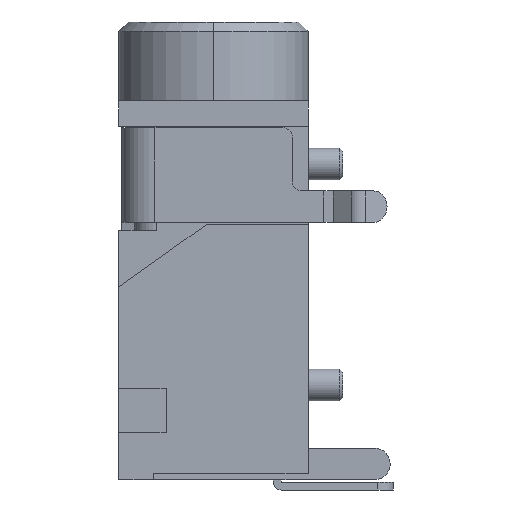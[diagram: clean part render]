
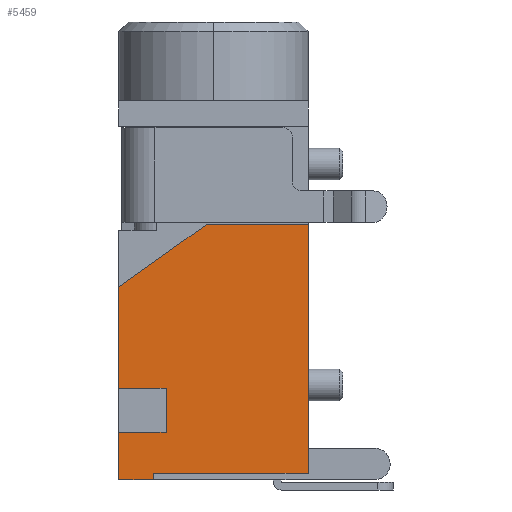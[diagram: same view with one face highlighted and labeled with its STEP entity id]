
A CAD part, left-side view. The second image highlights one B-rep face of the part: STEP entity #5459.
In plain terms, the highlighted planar face has unit normal (-1, 0, 0).
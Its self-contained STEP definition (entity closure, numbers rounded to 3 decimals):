
#62 = VECTOR ( 'NONE', #1452, 1000. ) ;
#121 = VECTOR ( 'NONE', #6139, 1000. ) ;
#291 = FACE_OUTER_BOUND ( 'NONE', #776, .T. ) ;
#308 = LINE ( 'NONE', #6707, #121 ) ;
#359 = CARTESIAN_POINT ( 'NONE',  ( -3.5, 4.5, 2.9 ) ) ;
#363 = CARTESIAN_POINT ( 'NONE',  ( -3.5, 6., 2.9 ) ) ;
#383 = EDGE_CURVE ( 'NONE', #5669, #6551, #308, .T. ) ;
#494 = VECTOR ( 'NONE', #7222, 1000. ) ;
#499 = CARTESIAN_POINT ( 'NONE',  ( -3.5, 0., 8.1 ) ) ;
#504 = ORIENTED_EDGE ( 'NONE', *, *, #2635, .T. ) ;
#634 = CARTESIAN_POINT ( 'NONE',  ( -3.5, 6., 2.9 ) ) ;
#704 = VECTOR ( 'NONE', #4278, 1000. ) ;
#748 = DIRECTION ( 'NONE',  ( -1., 0., 0. ) ) ;
#775 = DIRECTION ( 'NONE',  ( 0., 0., 1. ) ) ;
#776 = EDGE_LOOP ( 'NONE', ( #1754, #2987, #4012, #1013, #4878, #1028, #3564, #2177, #504, #3040, #1123 ) ) ;
#809 = EDGE_CURVE ( 'NONE', #6131, #2252, #1889, .T. ) ;
#1013 = ORIENTED_EDGE ( 'NONE', *, *, #4045, .F. ) ;
#1028 = ORIENTED_EDGE ( 'NONE', *, *, #2202, .T. ) ;
#1034 = LINE ( 'NONE', #5073, #2510 ) ;
#1123 = ORIENTED_EDGE ( 'NONE', *, *, #383, .F. ) ;
#1333 = CARTESIAN_POINT ( 'NONE',  ( -3.5, 4.9, 0. ) ) ;
#1452 = DIRECTION ( 'NONE',  ( 0., 1., 0. ) ) ;
#1747 = VERTEX_POINT ( 'NONE', #6940 ) ;
#1750 = CARTESIAN_POINT ( 'NONE',  ( -3.5, 3.2, 8.1 ) ) ;
#1754 = ORIENTED_EDGE ( 'NONE', *, *, #4555, .F. ) ;
#1812 = CARTESIAN_POINT ( 'NONE',  ( -3.5, 4.5, 1.5 ) ) ;
#1889 = LINE ( 'NONE', #359, #3371 ) ;
#1915 = VECTOR ( 'NONE', #5293, 1000. ) ;
#1942 = CARTESIAN_POINT ( 'NONE',  ( -3.5, 0., 0.2 ) ) ;
#1993 = VERTEX_POINT ( 'NONE', #6059 ) ;
#1995 = CARTESIAN_POINT ( 'NONE',  ( -3.5, 4.9, 0. ) ) ;
#2122 = VECTOR ( 'NONE', #2502, 1000. ) ;
#2177 = ORIENTED_EDGE ( 'NONE', *, *, #4280, .F. ) ;
#2202 = EDGE_CURVE ( 'NONE', #1747, #3749, #3956, .T. ) ;
#2252 = VERTEX_POINT ( 'NONE', #1812 ) ;
#2263 = LINE ( 'NONE', #1942, #1915 ) ;
#2476 = VERTEX_POINT ( 'NONE', #499 ) ;
#2502 = DIRECTION ( 'NONE',  ( 0., 0., 1. ) ) ;
#2510 = VECTOR ( 'NONE', #3943, 1000. ) ;
#2635 = EDGE_CURVE ( 'NONE', #1993, #2476, #3615, .T. ) ;
#2764 = EDGE_CURVE ( 'NONE', #1747, #5187, #3698, .T. ) ;
#2765 = VERTEX_POINT ( 'NONE', #363 ) ;
#2855 = CARTESIAN_POINT ( 'NONE',  ( -3.5, 4.9, 0.2 ) ) ;
#2976 = VECTOR ( 'NONE', #775, 1000. ) ;
#2987 = ORIENTED_EDGE ( 'NONE', *, *, #4090, .T. ) ;
#3040 = ORIENTED_EDGE ( 'NONE', *, *, #3390, .T. ) ;
#3157 = LINE ( 'NONE', #1333, #2976 ) ;
#3256 = EDGE_CURVE ( 'NONE', #3749, #7173, #3157, .T. ) ;
#3294 = CARTESIAN_POINT ( 'NONE',  ( -3.5, 6., 2.9 ) ) ;
#3371 = VECTOR ( 'NONE', #5421, 1000. ) ;
#3381 = DIRECTION ( 'NONE',  ( 0., -1., 0. ) ) ;
#3390 = EDGE_CURVE ( 'NONE', #2476, #6551, #6055, .T. ) ;
#3521 = PLANE ( 'NONE',  #4132 ) ;
#3564 = ORIENTED_EDGE ( 'NONE', *, *, #3256, .T. ) ;
#3615 = LINE ( 'NONE', #6027, #2122 ) ;
#3698 = LINE ( 'NONE', #4821, #704 ) ;
#3749 = VERTEX_POINT ( 'NONE', #1995 ) ;
#3943 = DIRECTION ( 'NONE',  ( 0., -1., 0. ) ) ;
#3956 = LINE ( 'NONE', #6485, #6777 ) ;
#4012 = ORIENTED_EDGE ( 'NONE', *, *, #809, .T. ) ;
#4045 = EDGE_CURVE ( 'NONE', #5187, #2252, #1034, .T. ) ;
#4090 = EDGE_CURVE ( 'NONE', #2765, #6131, #6670, .T. ) ;
#4100 = CARTESIAN_POINT ( 'NONE',  ( -3.5, 6., 0. ) ) ;
#4132 = AXIS2_PLACEMENT_3D ( 'NONE', #4100, #748, #4665 ) ;
#4241 = CARTESIAN_POINT ( 'NONE',  ( -3.5, 0., 8.1 ) ) ;
#4278 = DIRECTION ( 'NONE',  ( 0., 0., 1. ) ) ;
#4280 = EDGE_CURVE ( 'NONE', #1993, #7173, #2263, .T. ) ;
#4555 = EDGE_CURVE ( 'NONE', #2765, #5669, #4789, .T. ) ;
#4665 = DIRECTION ( 'NONE',  ( 0., 0., 1. ) ) ;
#4789 = LINE ( 'NONE', #3294, #494 ) ;
#4821 = CARTESIAN_POINT ( 'NONE',  ( -3.5, 6., 0. ) ) ;
#4878 = ORIENTED_EDGE ( 'NONE', *, *, #2764, .F. ) ;
#5073 = CARTESIAN_POINT ( 'NONE',  ( -3.5, 6., 1.5 ) ) ;
#5162 = VECTOR ( 'NONE', #3381, 1000. ) ;
#5187 = VERTEX_POINT ( 'NONE', #5487 ) ;
#5293 = DIRECTION ( 'NONE',  ( 0., 1., 0. ) ) ;
#5421 = DIRECTION ( 'NONE',  ( 0., 0., -1. ) ) ;
#5438 = CARTESIAN_POINT ( 'NONE',  ( -3.5, 6., 6.1 ) ) ;
#5459 = ADVANCED_FACE ( 'NONE', ( #291 ), #3521, .T. ) ;
#5487 = CARTESIAN_POINT ( 'NONE',  ( -3.5, 6., 1.5 ) ) ;
#5561 = DIRECTION ( 'NONE',  ( 0., -1., 0. ) ) ;
#5669 = VERTEX_POINT ( 'NONE', #5438 ) ;
#6027 = CARTESIAN_POINT ( 'NONE',  ( -3.5, 0., 0.2 ) ) ;
#6055 = LINE ( 'NONE', #4241, #62 ) ;
#6059 = CARTESIAN_POINT ( 'NONE',  ( -3.5, 0., 0.2 ) ) ;
#6131 = VERTEX_POINT ( 'NONE', #6383 ) ;
#6139 = DIRECTION ( 'NONE',  ( 0., -0.814, 0.581 ) ) ;
#6383 = CARTESIAN_POINT ( 'NONE',  ( -3.5, 4.5, 2.9 ) ) ;
#6485 = CARTESIAN_POINT ( 'NONE',  ( -3.5, 6., 0. ) ) ;
#6551 = VERTEX_POINT ( 'NONE', #1750 ) ;
#6670 = LINE ( 'NONE', #634, #5162 ) ;
#6707 = CARTESIAN_POINT ( 'NONE',  ( -3.5, 6., 6.1 ) ) ;
#6777 = VECTOR ( 'NONE', #5561, 1000. ) ;
#6940 = CARTESIAN_POINT ( 'NONE',  ( -3.5, 6., 0. ) ) ;
#7173 = VERTEX_POINT ( 'NONE', #2855 ) ;
#7222 = DIRECTION ( 'NONE',  ( 0., 0., 1. ) ) ;
